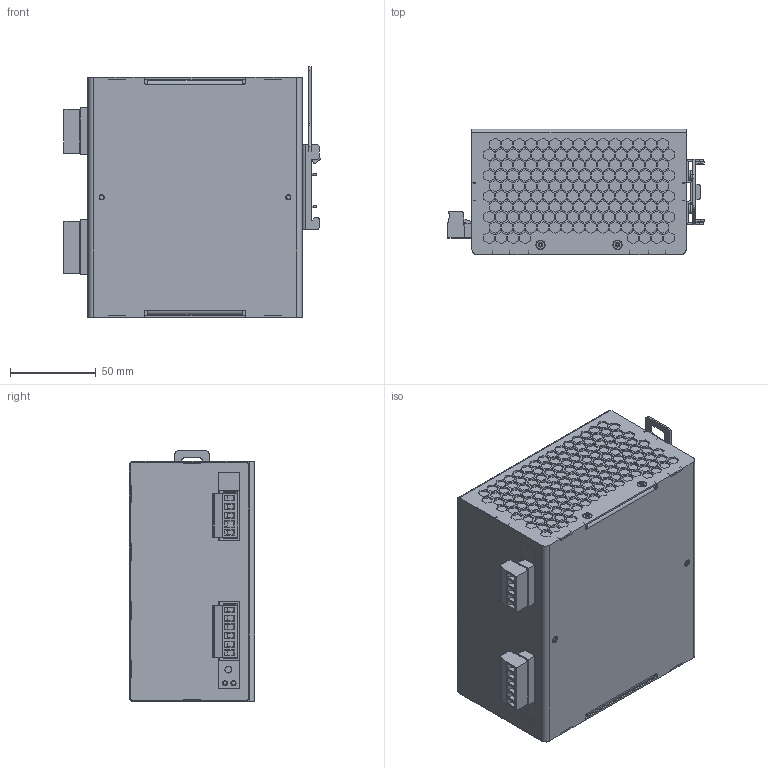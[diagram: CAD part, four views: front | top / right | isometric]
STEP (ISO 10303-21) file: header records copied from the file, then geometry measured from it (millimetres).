
FILE_DESCRIPTION (( 'STEP AP214' ), '1' );
FILE_NAME ('NPSM480_-_NPST480_-_NPSW480_3D_light.STEP', '2016-04-27T10:53:03', ( 'miky' ), ( 'Microsoft' ), 'SwSTEP 2.0', 'SolidWorks 2014', '' );
FILE_SCHEMA (( 'AUTOMOTIVE_DESIGN' ));
Length unit declared in the file: millimetre
Products named in the file (1): NPSM480_-_NPST480_-_NPSW480_3D_light
Bounding box: 149.53 x 73 x 146.2 mm (x, y, z)
Volume: 1282218.1 mm3; surface area: 95246.3 mm2
Topology: 1 solids, 12 shells, 3696 faces, 9942 edges, 6554 vertices
Faces by surface type: plane 3038, cylinder 545, cone 97, bspline 10, torus 4, sphere 2
Entity records: 157500 total; most frequent: CARTESIAN_POINT 24510, ORIENTED_EDGE 19872, DIRECTION 18425, EDGE_CURVE 9936, VECTOR 8217, LINE 8217, VERTEX_POINT 6550, AXIS2_PLACEMENT_3D 5104
